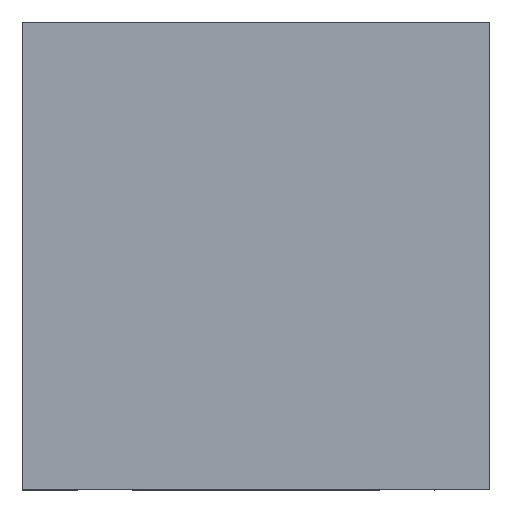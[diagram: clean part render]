
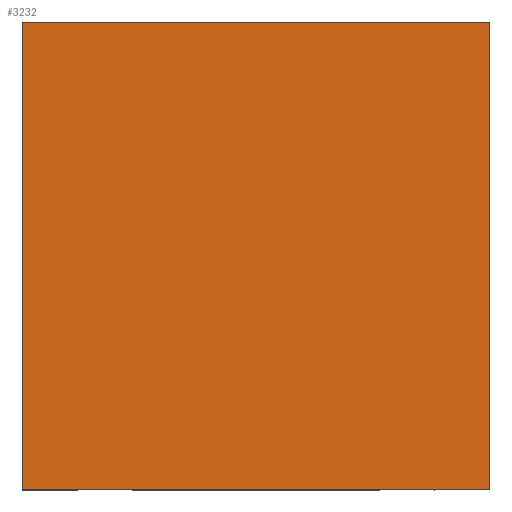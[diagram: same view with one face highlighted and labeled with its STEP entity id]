
A CAD part, left-side view. The second image highlights one B-rep face of the part: STEP entity #3232.
In plain terms, the highlighted planar face has unit normal (-1, 0, 0).
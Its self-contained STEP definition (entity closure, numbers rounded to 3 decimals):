
#505=FACE_OUTER_BOUND('',#682,.T.);
#682=EDGE_LOOP('',(#2859,#2860,#2861,#2862));
#1025=LINE('',#9183,#1349);
#1026=LINE('',#9185,#1350);
#1027=LINE('',#9187,#1351);
#1028=LINE('',#9188,#1352);
#1349=VECTOR('',#4136,304.8);
#1350=VECTOR('',#4137,304.8);
#1351=VECTOR('',#4138,304.8);
#1352=VECTOR('',#4139,304.8);
#1763=VERTEX_POINT('',#9181);
#1764=VERTEX_POINT('',#9182);
#1765=VERTEX_POINT('',#9184);
#1766=VERTEX_POINT('',#9186);
#2215=EDGE_CURVE('',#1763,#1764,#1025,.T.);
#2216=EDGE_CURVE('',#1765,#1763,#1026,.T.);
#2217=EDGE_CURVE('',#1766,#1765,#1027,.T.);
#2218=EDGE_CURVE('',#1764,#1766,#1028,.T.);
#2859=ORIENTED_EDGE('',*,*,#2215,.F.);
#2860=ORIENTED_EDGE('',*,*,#2216,.F.);
#2861=ORIENTED_EDGE('',*,*,#2217,.F.);
#2862=ORIENTED_EDGE('',*,*,#2218,.F.);
#3073=PLANE('',#3465);
#3232=ADVANCED_FACE('',(#505),#3073,.T.);
#3465=AXIS2_PLACEMENT_3D('',#9180,#4134,#4135);
#4134=DIRECTION('center_axis',(-1.,0.,0.));
#4135=DIRECTION('ref_axis',(0.,0.,-1.));
#4136=DIRECTION('',(0.,-1.,0.));
#4137=DIRECTION('',(0.,0.,1.));
#4138=DIRECTION('',(0.,1.,0.));
#4139=DIRECTION('',(0.,0.,-1.));
#9180=CARTESIAN_POINT('Origin',(-140.,42.5,85.));
#9181=CARTESIAN_POINT('',(-140.,42.5,85.));
#9182=CARTESIAN_POINT('',(-140.,-42.5,85.));
#9183=CARTESIAN_POINT('',(-140.,42.5,85.));
#9184=CARTESIAN_POINT('',(-140.,42.5,0.));
#9185=CARTESIAN_POINT('',(-140.,42.5,0.));
#9186=CARTESIAN_POINT('',(-140.,-42.5,0.));
#9187=CARTESIAN_POINT('',(-140.,-42.5,0.));
#9188=CARTESIAN_POINT('',(-140.,-42.5,85.));
